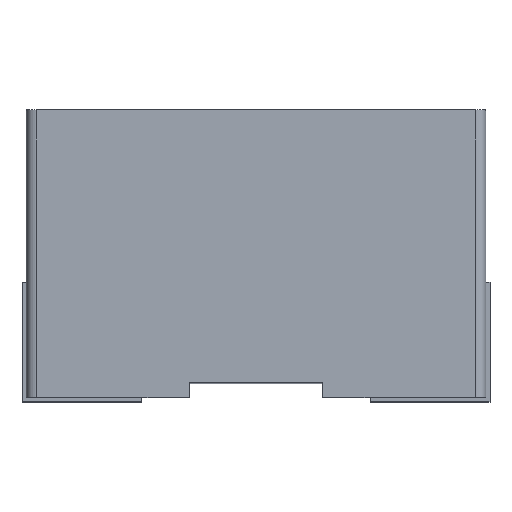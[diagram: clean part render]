
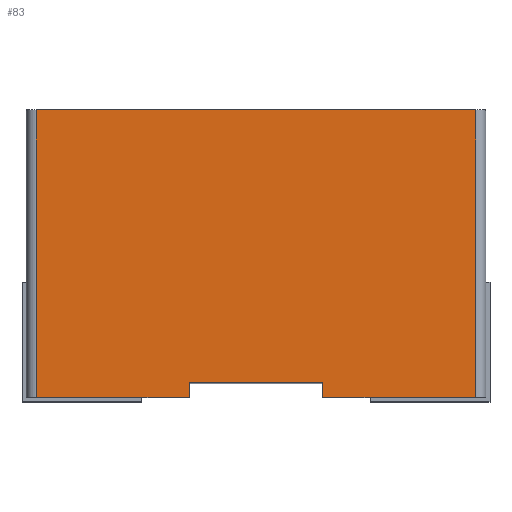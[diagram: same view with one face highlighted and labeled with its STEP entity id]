
A CAD part, top view. The second image highlights one B-rep face of the part: STEP entity #83.
In plain terms, the highlighted planar face has unit normal (0, 0, 1).
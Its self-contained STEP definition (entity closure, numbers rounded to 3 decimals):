
#12 = VECTOR ( 'NONE', #77, 1000. ) ;
#34 = EDGE_CURVE ( 'NONE', #827, #415, #292, .T. ) ;
#57 = ORIENTED_EDGE ( 'NONE', *, *, #410, .T. ) ;
#65 = DIRECTION ( 'NONE',  ( 0., 1., 0. ) ) ;
#75 = CARTESIAN_POINT ( 'NONE',  ( 3.2, -1.396, 0.364 ) ) ;
#77 = DIRECTION ( 'NONE',  ( -1., 0., 0. ) ) ;
#78 = ORIENTED_EDGE ( 'NONE', *, *, #134, .T. ) ;
#83 = ADVANCED_FACE ( 'NONE', ( #418 ), #250, .F. ) ;
#105 = CARTESIAN_POINT ( 'NONE',  ( 0.07, 0.604, 0.364 ) ) ;
#108 = VECTOR ( 'NONE', #65, 1000. ) ;
#129 = CARTESIAN_POINT ( 'NONE',  ( 3.13, 0.604, 0.364 ) ) ;
#131 = CARTESIAN_POINT ( 'NONE',  ( 1.135, -1.296, 0.364 ) ) ;
#134 = EDGE_CURVE ( 'NONE', #257, #548, #248, .T. ) ;
#143 = CARTESIAN_POINT ( 'NONE',  ( 3.2, -1.396, 0.364 ) ) ;
#151 = VECTOR ( 'NONE', #659, 1000. ) ;
#161 = LINE ( 'NONE', #129, #108 ) ;
#178 = DIRECTION ( 'NONE',  ( 0., 1., 0. ) ) ;
#189 = CARTESIAN_POINT ( 'NONE',  ( 3.2, -1.296, 0.364 ) ) ;
#202 = EDGE_CURVE ( 'NONE', #854, #658, #270, .T. ) ;
#228 = ORIENTED_EDGE ( 'NONE', *, *, #34, .T. ) ;
#248 = LINE ( 'NONE', #105, #508 ) ;
#250 = PLANE ( 'NONE',  #669 ) ;
#257 = VERTEX_POINT ( 'NONE', #671 ) ;
#270 = LINE ( 'NONE', #809, #856 ) ;
#292 = LINE ( 'NONE', #589, #537 ) ;
#295 = EDGE_CURVE ( 'NONE', #367, #621, #161, .T. ) ;
#313 = CARTESIAN_POINT ( 'NONE',  ( 2.065, -1.396, 0.364 ) ) ;
#315 = DIRECTION ( 'NONE',  ( 0., 1., 0. ) ) ;
#328 = ORIENTED_EDGE ( 'NONE', *, *, #202, .T. ) ;
#329 = CARTESIAN_POINT ( 'NONE',  ( 1.135, -1.396, 0.364 ) ) ;
#338 = EDGE_CURVE ( 'NONE', #367, #658, #864, .T. ) ;
#339 = DIRECTION ( 'NONE',  ( -1., 0., 0. ) ) ;
#346 = ORIENTED_EDGE ( 'NONE', *, *, #811, .T. ) ;
#367 = VERTEX_POINT ( 'NONE', #893 ) ;
#373 = ORIENTED_EDGE ( 'NONE', *, *, #338, .F. ) ;
#406 = ORIENTED_EDGE ( 'NONE', *, *, #434, .F. ) ;
#410 = EDGE_CURVE ( 'NONE', #621, #257, #565, .T. ) ;
#415 = VERTEX_POINT ( 'NONE', #131 ) ;
#418 = FACE_OUTER_BOUND ( 'NONE', #696, .T. ) ;
#434 = EDGE_CURVE ( 'NONE', #827, #548, #791, .T. ) ;
#477 = CARTESIAN_POINT ( 'NONE',  ( 2.065, -1.296, 0.364 ) ) ;
#502 = VECTOR ( 'NONE', #540, 1000. ) ;
#508 = VECTOR ( 'NONE', #733, 1000. ) ;
#537 = VECTOR ( 'NONE', #178, 1000. ) ;
#540 = DIRECTION ( 'NONE',  ( -1., 0., 0. ) ) ;
#548 = VERTEX_POINT ( 'NONE', #701 ) ;
#555 = LINE ( 'NONE', #189, #151 ) ;
#565 = LINE ( 'NONE', #812, #585 ) ;
#585 = VECTOR ( 'NONE', #339, 1000. ) ;
#589 = CARTESIAN_POINT ( 'NONE',  ( 1.135, 0.604, 0.364 ) ) ;
#599 = DIRECTION ( 'NONE',  ( 0., -1., 0. ) ) ;
#621 = VERTEX_POINT ( 'NONE', #789 ) ;
#645 = DIRECTION ( 'NONE',  ( 0., 0., -1. ) ) ;
#658 = VERTEX_POINT ( 'NONE', #313 ) ;
#659 = DIRECTION ( 'NONE',  ( 1., 0., 0. ) ) ;
#669 = AXIS2_PLACEMENT_3D ( 'NONE', #868, #645, #315 ) ;
#671 = CARTESIAN_POINT ( 'NONE',  ( 0.07, 0.604, 0.364 ) ) ;
#696 = EDGE_LOOP ( 'NONE', ( #373, #714, #57, #78, #406, #228, #346, #328 ) ) ;
#701 = CARTESIAN_POINT ( 'NONE',  ( 0.07, -1.396, 0.364 ) ) ;
#714 = ORIENTED_EDGE ( 'NONE', *, *, #295, .T. ) ;
#733 = DIRECTION ( 'NONE',  ( 0., -1., 0. ) ) ;
#789 = CARTESIAN_POINT ( 'NONE',  ( 3.13, 0.604, 0.364 ) ) ;
#791 = LINE ( 'NONE', #75, #12 ) ;
#809 = CARTESIAN_POINT ( 'NONE',  ( 2.065, 0.604, 0.364 ) ) ;
#811 = EDGE_CURVE ( 'NONE', #415, #854, #555, .T. ) ;
#812 = CARTESIAN_POINT ( 'NONE',  ( 3.2, 0.604, 0.364 ) ) ;
#827 = VERTEX_POINT ( 'NONE', #329 ) ;
#854 = VERTEX_POINT ( 'NONE', #477 ) ;
#856 = VECTOR ( 'NONE', #599, 1000. ) ;
#864 = LINE ( 'NONE', #143, #502 ) ;
#868 = CARTESIAN_POINT ( 'NONE',  ( 3.2, 0.604, 0.364 ) ) ;
#893 = CARTESIAN_POINT ( 'NONE',  ( 3.13, -1.396, 0.364 ) ) ;
